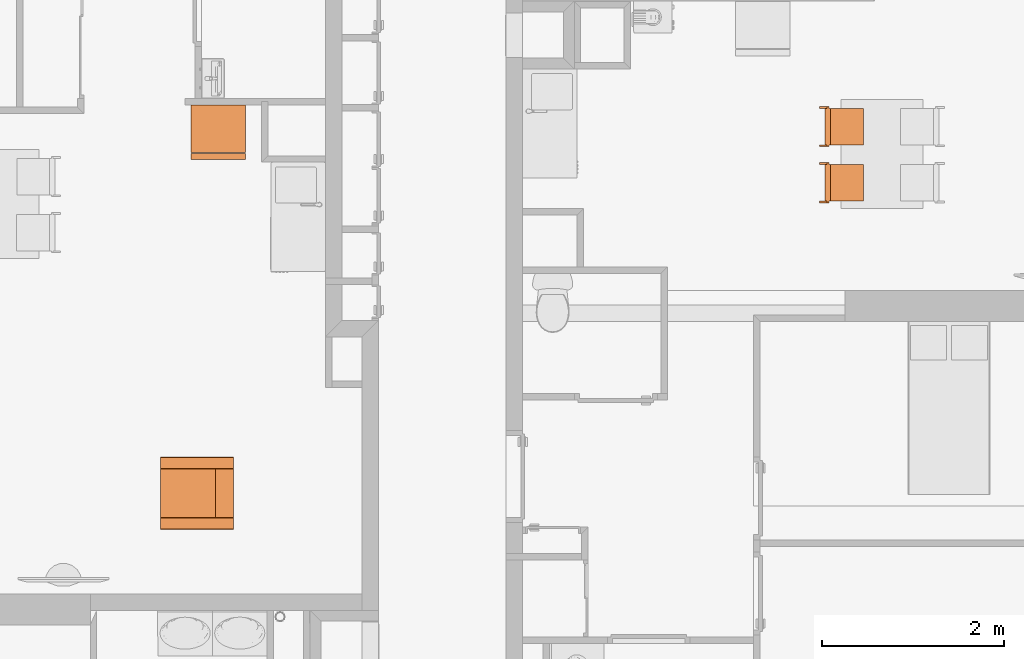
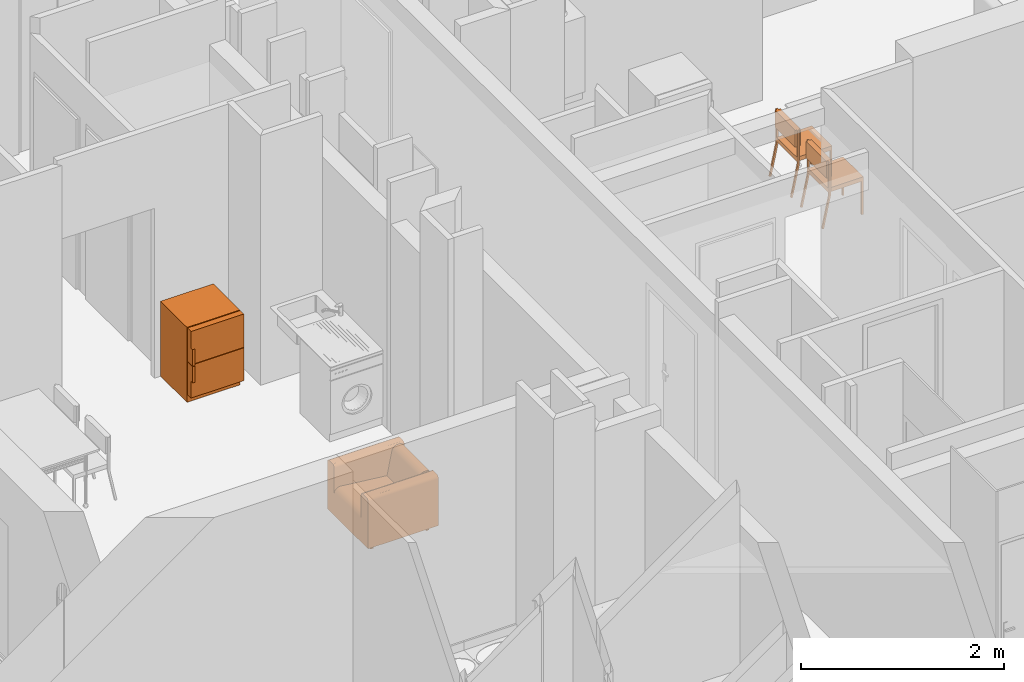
# One storey, part 152 of 171: 4 proxies.
"""IFC2X3 building model written with IfcOpenShell, lengths in millimetres."""

from ifc_helpers import new_model, entity, si_unit, converted_unit, derived_unit, money_unit, direction, frame, origin_with_axes, place, context, subcontext, project, spatial, open_shell, faceted_brep, surface_model, source, transform, mapped, type_object, element, save


model = new_model("IFC2X3")

# Units and contexts
model_context = context("Model", 3, precision=0.01, world=origin_with_axes(), true_north=direction((0.0, 1.0)))
body_context = subcontext(model_context, "Body", "Model", "MODEL_VIEW")
ifc_project = project(units=[si_unit("LENGTHUNIT", "METRE", prefix="MILLI"), si_unit("AREAUNIT", "SQUARE_METRE"), si_unit("VOLUMEUNIT", "CUBIC_METRE"), converted_unit("PLANEANGLEUNIT", "DEGREE", entity("IfcPlaneAngleMeasure", 0.0174532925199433), si_unit("PLANEANGLEUNIT", "RADIAN"), dimensions=[0, 0, 0, 0, 0, 0, 0]), money_unit("USD"), converted_unit("TIMEUNIT", "Year", entity("IfcTimeMeasure", 31557600.0), si_unit("TIMEUNIT", "SECOND"), dimensions=[0, 0, 1, 0, 0, 0, 0]), si_unit("MASSUNIT", "GRAM", prefix="KILO"), si_unit("THERMODYNAMICTEMPERATUREUNIT", "DEGREE_CELSIUS"), si_unit("LUMINOUSINTENSITYUNIT", "LUMEN"), si_unit("ENERGYUNIT", "JOULE", prefix="MEGA"), derived_unit("THERMALCONDUCTANCEUNIT", [(si_unit("POWERUNIT", "WATT"), 1), (si_unit("LENGTHUNIT", "METRE"), -1), (si_unit("THERMODYNAMICTEMPERATUREUNIT", "KELVIN"), -1)]), derived_unit("SPECIFICHEATCAPACITYUNIT", [(si_unit("ENERGYUNIT", "JOULE"), 1), (si_unit("MASSUNIT", "GRAM", prefix="KILO"), -1), (si_unit("THERMODYNAMICTEMPERATUREUNIT", "KELVIN"), -1)]), derived_unit("MASSDENSITYUNIT", [(si_unit("MASSUNIT", "GRAM", prefix="KILO"), 1), (si_unit("VOLUMEUNIT", "CUBIC_METRE"), -1)])], contexts=[model_context])

# Site, building, storey
site_placement = place(None, origin_with_axes())
site = spatial("IfcSite", under=ifc_project, at=site_placement, Name="Site", CompositionType="ELEMENT")
building_placement = place(site_placement, origin_with_axes())
building = spatial("IfcBuilding", under=site, at=building_placement, Name="Bâtiment", CompositionType="ELEMENT")
storey_placement = place(building_placement, frame((0.0, 0.0, 3000.0), z_axis=(0.0, 0.0, 1.0), x_axis=(1.0, 0.0, 0.0)))
storey = spatial("IfcBuildingStorey", under=building, at=storey_placement, Name="rdc", CompositionType="ELEMENT", Elevation=3000.0)

# Proxies
building_element_proxy_type = type_object("IfcBuildingElementProxyType", PredefinedType="NOTDEFINED")
shared_shape_1 = source(origin_with_axes(), body_context, "Body", "Brep", [
    faceted_brep([(-39.99999978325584, 0.0, 0.0), (-39.99999978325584, 19.99999936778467, 0.0), (-19.99999989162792, 19.99999936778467, 0.0), (-19.99999989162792, 0.0, 0.0), (-39.99999978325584, 0.0, 400.0), (-39.99999978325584, 19.99999936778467, 400.0), (-19.99999989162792, 19.99999936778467, 400.0), (-19.99999989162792, 0.0, 400.0)], [[[0, 1, 2, 3]], [[0, 4, 5, 1]], [[1, 5, 6, 2]], [[2, 6, 7, 3]], [[3, 7, 4, 0]], [[7, 6, 5, 4]]]),
    faceted_brep([(-419.9999977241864, 0.0, 0.0), (-419.9999977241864, 19.99999936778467, 0.0), (-399.9999978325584, 19.99999936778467, 0.0), (-399.9999978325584, 0.0, 0.0), (-419.9999977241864, 0.0, 400.0), (-419.9999977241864, 19.99999936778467, 400.0), (-399.9999978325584, 19.99999936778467, 400.0), (-399.9999978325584, 0.0, 400.0)], [[[0, 1, 2, 3]], [[0, 4, 5, 1]], [[1, 5, 6, 2]], [[2, 6, 7, 3]], [[3, 7, 4, 0]], [[7, 6, 5, 4]]]),
    faceted_brep([(-399.9999978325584, 0.0, 400.0000000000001), (-399.9999978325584, 19.99999936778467, 400.0000000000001), (-39.99999978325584, 19.99999936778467, 400.0000000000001), (-39.99999978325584, 0.0, 400.0000000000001), (-399.9999978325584, 0.0, 420.0000000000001), (-399.9999978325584, 19.99999936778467, 420.0000000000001), (-39.99999978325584, 19.99999936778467, 420.0000000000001), (-39.99999978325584, 0.0, 420.0000000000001)], [[[0, 1, 2, 3]], [[0, 4, 5, 1]], [[1, 5, 6, 2]], [[2, 6, 7, 3]], [[3, 7, 4, 0]], [[7, 6, 5, 4]]]),
    faceted_brep([(-39.99999978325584, 19.99999936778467, 400.0000000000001), (-39.99999978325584, 379.9999879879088, 400.0000000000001), (-19.99999989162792, 379.9999879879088, 400.0000000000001), (-19.99999989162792, 19.99999936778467, 400.0000000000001), (-39.99999978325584, 19.99999936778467, 420.0000000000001), (-39.99999978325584, 379.9999879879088, 420.0000000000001), (-19.99999989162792, 379.9999879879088, 420.0000000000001), (-19.99999989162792, 19.99999936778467, 420.0000000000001)], [[[0, 1, 2, 3]], [[0, 4, 5, 1]], [[1, 5, 6, 2]], [[2, 6, 7, 3]], [[3, 7, 4, 0]], [[7, 6, 5, 4]]]),
    faceted_brep([(-419.9999977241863, 379.9999879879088, 400.0000000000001), (-419.9999977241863, 399.9999873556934, 400.0000000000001), (-19.99999989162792, 399.9999873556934, 400.0000000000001), (-19.99999989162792, 379.9999879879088, 400.0000000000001), (-419.9999977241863, 379.9999879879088, 420.0000000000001), (-419.9999977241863, 399.9999873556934, 420.0000000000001), (-19.99999989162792, 399.9999873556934, 420.0000000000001), (-19.99999989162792, 379.9999879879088, 420.0000000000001)], [[[0, 1, 2, 3]], [[0, 4, 5, 1]], [[1, 5, 6, 2]], [[2, 6, 7, 3]], [[3, 7, 4, 0]], [[7, 6, 5, 4]]]),
    faceted_brep([(-419.9999977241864, 19.99999936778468, 400.0000000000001), (-419.9999977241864, 379.9999879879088, 400.0000000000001), (-399.9999978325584, 379.9999879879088, 400.0000000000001), (-399.9999978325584, 19.99999936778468, 400.0000000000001), (-419.9999977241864, 19.99999936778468, 420.0000000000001), (-419.9999977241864, 379.9999879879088, 420.0000000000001), (-399.9999978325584, 379.9999879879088, 420.0000000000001), (-399.9999978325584, 19.99999936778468, 420.0000000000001)], [[[0, 1, 2, 3]], [[0, 4, 5, 1]], [[1, 5, 6, 2]], [[2, 6, 7, 3]], [[3, 7, 4, 0]], [[7, 6, 5, 4]]]),
    faceted_brep([(-419.9999977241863, 0.0, 400.0), (-419.9999977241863, 399.9999873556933, 400.0), (-19.99999989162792, 399.9999873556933, 400.0), (-19.99999989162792, 0.0, 400.0), (-419.9999977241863, 0.0, 450.0), (-419.9999977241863, 399.9999873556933, 450.0), (-19.99999989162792, 399.9999873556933, 450.0), (-19.99999989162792, 0.0, 450.0)], [[[0, 1, 2, 3]], [[0, 4, 5, 1]], [[1, 5, 6, 2]], [[2, 6, 7, 3]], [[3, 7, 4, 0]], [[7, 6, 5, 4]]]),
    faceted_brep([(-19.99999989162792, 379.9999879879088, 380.0), (-19.99999989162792, 399.9999873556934, 380.0), (0.0, 399.9999873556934, 380.0), (0.0, 379.9999879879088, 380.0), (-19.99999989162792, 379.9999879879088, 780.0), (-19.99999989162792, 399.9999873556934, 780.0), (0.0, 399.9999873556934, 780.0), (0.0, 379.9999879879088, 780.0)], [[[0, 1, 2, 3]], [[0, 4, 5, 1]], [[1, 5, 6, 2]], [[2, 6, 7, 3]], [[3, 7, 4, 0]], [[7, 6, 5, 4]]]),
    faceted_brep([(-439.9999976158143, 379.9999879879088, 380.0), (-439.9999976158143, 399.9999873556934, 380.0), (-419.9999977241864, 399.9999873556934, 380.0), (-419.9999977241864, 379.9999879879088, 380.0), (-439.9999976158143, 379.9999879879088, 780.0), (-439.9999976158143, 399.9999873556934, 780.0), (-419.9999977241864, 399.9999873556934, 780.0), (-419.9999977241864, 379.9999879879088, 780.0)], [[[0, 1, 2, 3]], [[0, 4, 5, 1]], [[1, 5, 6, 2]], [[2, 6, 7, 3]], [[3, 7, 4, 0]], [[7, 6, 5, 4]]]),
    faceted_brep([(-419.9999977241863, 359.999988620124, 580.0000000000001), (-419.9999977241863, 419.9999867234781, 580.0000000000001), (-19.99999989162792, 419.9999867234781, 580.0000000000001), (-19.99999989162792, 359.999988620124, 580.0000000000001), (-419.9999977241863, 359.999988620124, 780.0), (-419.9999977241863, 419.9999867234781, 780.0), (-19.99999989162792, 419.9999867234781, 780.0), (-19.99999989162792, 359.999988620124, 780.0)], [[[0, 1, 2, 3]], [[0, 4, 5, 1]], [[1, 5, 6, 2]], [[2, 6, 7, 3]], [[3, 7, 4, 0]], [[7, 6, 5, 4]]]),
    faceted_brep([(-19.99999989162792, 459.9999854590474, 0.0), (-19.99999989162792, 479.5709559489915, 4.120326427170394), (0.0, 479.5709559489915, 4.120326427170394), (0.0, 459.9999854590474, 0.0), (-19.99999989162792, 379.997669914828, 379.999760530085), (-19.99999989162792, 399.5686404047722, 384.1200869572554), (0.0, 399.5686404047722, 384.1200869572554), (0.0, 379.997669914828, 379.999760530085)], [[[0, 1, 2, 3]], [[0, 4, 5, 1]], [[1, 5, 6, 2]], [[2, 6, 7, 3]], [[3, 7, 4, 0]], [[7, 6, 5, 4]]]),
    faceted_brep([(-439.9999976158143, 459.9999854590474, 0.0), (-439.9999976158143, 479.5709559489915, 4.120326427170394), (-419.9999977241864, 479.5709559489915, 4.120326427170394), (-419.9999977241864, 459.9999854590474, 0.0), (-439.9999976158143, 379.997669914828, 379.999760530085), (-439.9999976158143, 399.5686404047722, 384.1200869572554), (-419.9999977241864, 399.5686404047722, 384.1200869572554), (-419.9999977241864, 379.997669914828, 379.999760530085)], [[[0, 1, 2, 3]], [[0, 4, 5, 1]], [[1, 5, 6, 2]], [[2, 6, 7, 3]], [[3, 7, 4, 0]], [[7, 6, 5, 4]]]),
])
for number, where, z_axis, x_axis, name in (
    (1, (2229634.550869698, -638670.4912594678, 0.0), (0.0, 0.0, 1.0), (8.510155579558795e-05, 0.9999999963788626, 0.0), "Obj.-027"),
    (2, (2229634.498521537, -639285.6166621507, 0.0), (0.0, 0.0, 1.0), (8.510155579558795e-05, 0.9999999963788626, 0.0), "Obj.-027"),
):
    element("IfcBuildingElementProxy", number, at=place(storey_placement, frame(where, z_axis=z_axis, x_axis=x_axis)), inside=storey, type_object=building_element_proxy_type, Name=name, context=body_context, shape_type="MappedRepresentation", body=[
        mapped(shared_shape_1, transform((0.0, 0.0, 0.0))),
    ])
shared_shape_2 = source(origin_with_axes(), body_context, "Body", "Brep", [
    faceted_brep([(-333.3000000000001, 66.7, 0.0), (-333.3000000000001, 100.0, 0.0), (-300.0000000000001, 100.0, 0.0), (-300.0000000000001, 66.7, 0.0), (-333.3000000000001, 66.7, 66.69999999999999), (-333.3000000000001, 100.0, 66.69999999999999), (-300.0000000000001, 100.0, 66.69999999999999), (-300.0000000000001, 66.7, 66.69999999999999)], [[[0, 1, 2, 3]], [[0, 4, 5, 1]], [[1, 5, 6, 2]], [[2, 6, 7, 3]], [[3, 7, 4, 0]], [[7, 6, 5, 4]]]),
    faceted_brep([(-333.3000000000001, 700.0000000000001, 0.0), (-333.3000000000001, 733.3000000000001, 0.0), (-300.0000000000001, 733.3000000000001, 0.0), (-300.0000000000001, 700.0000000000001, 0.0), (-333.3000000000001, 700.0000000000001, 66.69999999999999), (-333.3000000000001, 733.3000000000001, 66.69999999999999), (-300.0000000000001, 733.3000000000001, 66.69999999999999), (-300.0000000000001, 700.0000000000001, 66.69999999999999)], [[[0, 1, 2, 3]], [[0, 4, 5, 1]], [[1, 5, 6, 2]], [[2, 6, 7, 3]], [[3, 7, 4, 0]], [[7, 6, 5, 4]]]),
    faceted_brep([(300.0000000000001, 66.7, 0.0), (300.0000000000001, 100.0, 0.0), (333.3000000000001, 100.0, 0.0), (333.3000000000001, 66.7, 0.0), (300.0000000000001, 66.7, 66.69999999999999), (300.0000000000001, 100.0, 66.69999999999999), (333.3000000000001, 100.0, 66.69999999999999), (333.3000000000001, 66.7, 66.69999999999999)], [[[0, 1, 2, 3]], [[0, 4, 5, 1]], [[1, 5, 6, 2]], [[2, 6, 7, 3]], [[3, 7, 4, 0]], [[7, 6, 5, 4]]]),
    faceted_brep([(300.0000000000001, 700.0000000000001, 0.0), (300.0000000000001, 733.3000000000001, 0.0), (333.3000000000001, 733.3000000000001, 0.0), (333.3000000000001, 700.0000000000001, 0.0), (300.0000000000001, 700.0000000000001, 66.69999999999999), (300.0000000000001, 733.3000000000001, 66.69999999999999), (333.3000000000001, 733.3000000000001, 66.69999999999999), (333.3000000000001, 700.0000000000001, 66.69999999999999)], [[[0, 1, 2, 3]], [[0, 4, 5, 1]], [[1, 5, 6, 2]], [[2, 6, 7, 3]], [[3, 7, 4, 0]], [[7, 6, 5, 4]]]),
    faceted_brep([(-266.7, 800.0, 66.69999999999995), (-266.7, 0.0, 66.69999999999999), (-400.033, 0.0, 66.69999999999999), (-400.033, 800.0, 66.69999999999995), (-266.7, 800.0, 67.19999999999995), (-266.7, 0.0, 67.19999999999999), (-266.7, 0.0, 633.37), (-266.7, 0.0, 636.2859999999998), (-267.713, 0.0, 642.029), (-269.707, 0.0, 647.5099999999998), (-272.623, 0.0, 652.5599999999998), (-276.372, 0.0, 657.0279999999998), (-280.84, 0.0, 660.7769999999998), (-285.89, 0.0, 663.6929999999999), (-291.371, 0.0, 665.6869999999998), (-297.114, 0.0, 666.6999999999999), (-300.03, 0.0, 666.6999999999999), (-366.703, 0.0, 666.6999999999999), (-369.619, 0.0, 666.6999999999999), (-375.363, 0.0, 665.6869999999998), (-380.843, 0.0, 663.6929999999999), (-385.894, 0.0, 660.7769999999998), (-390.361, 0.0, 657.0279999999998), (-394.11, 0.0, 652.5599999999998), (-397.026, 0.0, 647.5099999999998), (-399.021, 0.0, 642.029), (-400.033, 0.0, 636.2859999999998), (-400.033, 0.0, 633.37), (-400.033, 800.0, 633.37), (-400.033, 800.0, 636.2859999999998), (-399.021, 800.0, 642.029), (-397.026, 800.0, 647.5099999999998), (-394.11, 800.0, 652.5599999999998), (-390.361, 800.0, 657.0279999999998), (-385.894, 800.0, 660.7769999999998), (-380.843, 800.0, 663.6929999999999), (-375.363, 800.0, 665.6869999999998), (-369.619, 800.0, 666.6999999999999), (-366.703, 800.0, 666.6999999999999), (-300.03, 800.0, 666.6999999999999), (-297.114, 800.0, 666.6999999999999), (-291.371, 800.0, 665.6869999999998), (-285.89, 800.0, 663.6929999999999), (-280.84, 800.0, 660.7769999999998), (-276.372, 800.0, 657.0279999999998), (-272.623, 800.0, 652.5599999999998), (-269.707, 800.0, 647.5099999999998), (-267.713, 800.0, 642.029), (-266.7, 800.0, 636.2859999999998), (-266.7, 800.0, 633.37)], [[[0, 1, 2, 3]], [[4, 5, 1, 0]], [[1, 5, 6, 7, 8, 9, 10, 11, 12, 13, 14, 15, 16, 17, 18, 19, 20, 21, 22, 23, 24, 25, 26, 27, 2]], [[3, 2, 27, 28]], [[0, 3, 28, 29, 30, 31, 32, 33, 34, 35, 36, 37, 38, 39, 40, 41, 42, 43, 44, 45, 46, 47, 48, 49, 4]], [[49, 6, 5, 4]], [[48, 7, 6, 49]], [[47, 8, 7, 48]], [[46, 9, 8, 47]], [[45, 10, 9, 46]], [[44, 11, 10, 45]], [[43, 12, 11, 44]], [[42, 13, 12, 43]], [[41, 14, 13, 42]], [[40, 15, 14, 41]], [[39, 16, 15, 40]], [[38, 17, 16, 39]], [[37, 18, 17, 38]], [[36, 19, 18, 37]], [[35, 20, 19, 36]], [[34, 21, 20, 35]], [[33, 22, 21, 34]], [[32, 23, 22, 33]], [[31, 24, 23, 32]], [[30, 25, 24, 31]], [[29, 26, 25, 30]], [[28, 27, 26, 29]]]),
    faceted_brep([(400.0, 800.0, 66.69999999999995), (400.0, 0.0, 66.69999999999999), (266.667, 0.0, 66.69999999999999), (266.667, 800.0, 66.69999999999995), (400.0, 800.0, 67.19999999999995), (400.0, 0.0, 67.19999999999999), (400.0, 0.0, 633.37), (400.0, 0.0, 636.2859999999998), (398.987, 0.0, 642.029), (396.9930000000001, 0.0, 647.5099999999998), (394.077, 0.0, 652.5599999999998), (390.328, 0.0, 657.0279999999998), (385.86, 0.0, 660.7769999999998), (380.8100000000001, 0.0, 663.6929999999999), (375.329, 0.0, 665.6869999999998), (369.586, 0.0, 666.6999999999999), (366.67, 0.0, 666.6999999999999), (299.997, 0.0, 666.6999999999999), (297.081, 0.0, 666.6999999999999), (291.337, 0.0, 665.6869999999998), (285.857, 0.0, 663.6929999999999), (280.806, 0.0, 660.7769999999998), (276.339, 0.0, 657.0279999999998), (272.59, 0.0, 652.5599999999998), (269.674, 0.0, 647.5099999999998), (267.679, 0.0, 642.029), (266.667, 0.0, 636.2859999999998), (266.667, 0.0, 633.37), (266.667, 800.0, 633.37), (266.667, 800.0, 636.2859999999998), (267.679, 800.0, 642.029), (269.674, 800.0, 647.5099999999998), (272.59, 800.0, 652.5599999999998), (276.339, 800.0, 657.0279999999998), (280.806, 800.0, 660.7769999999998), (285.857, 800.0, 663.6929999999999), (291.337, 800.0, 665.6869999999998), (297.081, 800.0, 666.6999999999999), (299.997, 800.0, 666.6999999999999), (366.67, 800.0, 666.6999999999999), (369.586, 800.0, 666.6999999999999), (375.329, 800.0, 665.6869999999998), (380.8100000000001, 800.0, 663.6929999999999), (385.86, 800.0, 660.7769999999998), (390.328, 800.0, 657.0279999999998), (394.077, 800.0, 652.5599999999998), (396.9930000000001, 800.0, 647.5099999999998), (398.987, 800.0, 642.029), (400.0, 800.0, 636.2859999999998), (400.0, 800.0, 633.37)], [[[0, 1, 2, 3]], [[4, 5, 1, 0]], [[1, 5, 6, 7, 8, 9, 10, 11, 12, 13, 14, 15, 16, 17, 18, 19, 20, 21, 22, 23, 24, 25, 26, 27, 2]], [[3, 2, 27, 28]], [[0, 3, 28, 29, 30, 31, 32, 33, 34, 35, 36, 37, 38, 39, 40, 41, 42, 43, 44, 45, 46, 47, 48, 49, 4]], [[49, 6, 5, 4]], [[48, 7, 6, 49]], [[47, 8, 7, 48]], [[46, 9, 8, 47]], [[45, 10, 9, 46]], [[44, 11, 10, 45]], [[43, 12, 11, 44]], [[42, 13, 12, 43]], [[41, 14, 13, 42]], [[40, 15, 14, 41]], [[39, 16, 15, 40]], [[38, 17, 16, 39]], [[37, 18, 17, 38]], [[36, 19, 18, 37]], [[35, 20, 19, 36]], [[34, 21, 20, 35]], [[33, 22, 21, 34]], [[32, 23, 22, 33]], [[31, 24, 23, 32]], [[30, 25, 24, 31]], [[29, 26, 25, 30]], [[28, 27, 26, 29]]]),
    faceted_brep([(266.6667, 0.0, 66.69999999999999), (-266.6333, 0.0, 66.69999999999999), (-266.6333, 800.0, 66.69999999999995), (266.6667, 800.0, 66.69999999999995), (266.6667, 0.0, 67.2), (-266.6333, 0.0, 67.2), (-266.6333, 0.0, 325.5449999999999), (-266.6333, -0.2359999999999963, 327.1109999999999), (-266.6333, 1.052000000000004, 338.7049999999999), (-266.6333, 4.334000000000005, 349.8989999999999), (-266.6333, 9.510000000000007, 360.3539999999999), (-266.6333, 16.42300000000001, 369.7509999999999), (-266.6333, 24.86200000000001, 377.8049999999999), (-266.6333, 34.57200000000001, 384.271), (-266.6333, 45.25800000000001, 388.9519999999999), (-266.6333, 56.59300000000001, 391.707), (-266.6333, 68.23500000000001, 392.4519999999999), (-266.6333, 74.03200000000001, 391.808), (-266.6333, 600.0000000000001, 333.3669999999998), (-266.6333, 600.0980000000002, 333.8569999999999), (-266.6333, 655.9480000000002, 613.1049999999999), (-266.6333, 656.6790000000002, 617.351), (-266.6333, 660.6690000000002, 628.314), (-266.6333, 666.5020000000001, 638.4159999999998), (-266.6333, 674.0000000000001, 647.3529999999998), (-266.6333, 682.937, 654.8509999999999), (-266.6333, 693.0390000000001, 660.6839999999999), (-266.6333, 704.0020000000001, 664.6739999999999), (-266.6333, 715.4900000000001, 666.6999999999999), (-266.6333, 721.3230000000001, 666.6999999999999), (-266.6333, 733.33, 666.6999999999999), (-266.6333, 739.163, 666.6999999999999), (-266.6333, 750.6510000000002, 664.6739999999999), (-266.6333, 761.614, 660.6839999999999), (-266.6333, 771.716, 654.8509999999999), (-266.6333, 780.653, 647.3529999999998), (-266.6333, 788.1510000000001, 638.4159999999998), (-266.6333, 793.984, 628.314), (-266.6333, 797.974, 617.351), (-266.6333, 800.0, 605.8629999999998), (-266.6333, 800.0, 600.0299999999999), (266.6667, 800.0, 600.0299999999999), (266.6667, 800.0, 605.8629999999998), (266.6667, 797.974, 617.351), (266.6667, 793.984, 628.314), (266.6667, 788.1510000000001, 638.4159999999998), (266.6667, 780.653, 647.3529999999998), (266.6667, 771.716, 654.8509999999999), (266.6667, 761.614, 660.6839999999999), (266.6667, 750.6510000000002, 664.6739999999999), (266.6667, 739.163, 666.6999999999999), (266.6667, 733.33, 666.6999999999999), (266.6667, 721.3230000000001, 666.6999999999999), (266.6667, 715.4900000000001, 666.6999999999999), (266.6667, 704.0020000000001, 664.6739999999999), (266.6667, 693.0390000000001, 660.6839999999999), (266.6667, 682.937, 654.8509999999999), (266.6667, 674.0000000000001, 647.3529999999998), (266.6667, 666.5020000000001, 638.4159999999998), (266.6667, 660.6690000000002, 628.314), (266.6667, 656.6790000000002, 617.351), (266.6667, 655.9480000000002, 613.1049999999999), (266.6667, 600.0980000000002, 333.8569999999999), (266.6667, 600.0000000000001, 333.3669999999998), (266.6667, 74.03200000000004, 391.808), (266.6667, 68.23500000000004, 392.4519999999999), (266.6667, 56.59300000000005, 391.707), (266.6667, 45.25800000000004, 388.9519999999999), (266.6667, 34.57200000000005, 384.271), (266.6667, 24.86200000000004, 377.8049999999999), (266.6667, 16.42300000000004, 369.7509999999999), (266.6667, 9.510000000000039, 360.3539999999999), (266.6667, 4.334000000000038, 349.8989999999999), (266.6667, 1.052000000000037, 338.7049999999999), (266.6667, -0.2359999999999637, 327.1109999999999), (266.6667, 0.0, 325.5449999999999)], [[[0, 1, 2, 3]], [[4, 5, 1, 0]], [[1, 5, 6, 7, 8, 9, 10, 11, 12, 13, 14, 15, 16, 17, 18, 19, 20, 21, 22, 23, 24, 25, 26, 27, 28, 29, 30, 31, 32, 33, 34, 35, 36, 37, 38, 39, 40, 2]], [[3, 2, 40, 41]], [[0, 3, 41, 42, 43, 44, 45, 46, 47, 48, 49, 50, 51, 52, 53, 54, 55, 56, 57, 58, 59, 60, 61, 62, 63, 64, 65, 66, 67, 68, 69, 70, 71, 72, 73, 74, 75, 4]], [[75, 6, 5, 4]], [[74, 7, 6, 75]], [[73, 8, 7, 74]], [[72, 9, 8, 73]], [[71, 10, 9, 72]], [[70, 11, 10, 71]], [[69, 12, 11, 70]], [[68, 13, 12, 69]], [[67, 14, 13, 68]], [[66, 15, 14, 67]], [[65, 16, 15, 66]], [[64, 17, 16, 65]], [[63, 18, 17, 64]], [[62, 19, 18, 63]], [[61, 20, 19, 62]], [[60, 21, 20, 61]], [[59, 22, 21, 60]], [[58, 23, 22, 59]], [[57, 24, 23, 58]], [[56, 25, 24, 57]], [[55, 26, 25, 56]], [[54, 27, 26, 55]], [[53, 28, 27, 54]], [[52, 29, 28, 53]], [[51, 30, 29, 52]], [[50, 31, 30, 51]], [[49, 32, 31, 50]], [[48, 33, 32, 49]], [[47, 34, 33, 48]], [[46, 35, 34, 47]], [[45, 36, 35, 46]], [[44, 37, 36, 45]], [[43, 38, 37, 44]], [[42, 39, 38, 43]], [[41, 40, 39, 42]]]),
])
proxy_1_placement = place(storey_placement, frame((2221923.384650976, -642912.0247262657, 800.0000000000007), z_axis=(0.0, 0.0, 1.0), x_axis=(-0.0006263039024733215, -0.9999998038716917, 0.0)))
element("IfcBuildingElementProxy", 3, at=proxy_1_placement, inside=storey, type_object=building_element_proxy_type, Name="Obj.-034", context=body_context, shape_type="MappedRepresentation", body=[
    mapped(shared_shape_2, transform((0.0, 0.0, 0.0))),
])
shared_shape_3 = source(origin_with_axes(), body_context, "Body", "SurfaceModel", [
    faceted_brep([(0.0, 80.0, 100.0), (0.0, 80.0, 900.0), (-600.0, 80.0, 900.0), (-600.0, 80.0, 100.0), (0.0, 600.0, 100.0), (0.0, 600.0, 900.0), (-600.0, 600.0, 900.0), (-600.0, 600.0, 100.0)], [[[0, 1, 2, 3]], [[4, 5, 1, 0]], [[1, 5, 6, 2]], [[3, 2, 6, 7]], [[0, 3, 7, 4]], [[7, 6, 5, 4]]]),
    faceted_brep([(0.0, 80.0, 0.0), (0.0, 80.0, 100.0), (-600.0, 80.0, 100.0), (-600.0, 80.0, 0.0), (0.0, 600.0, 0.0), (0.0, 600.0, 100.0), (-600.0, 600.0, 100.0), (-600.0, 600.0, 0.0)], [[[0, 1, 2, 3]], [[4, 5, 1, 0]], [[1, 5, 6, 2]], [[3, 2, 6, 7]], [[0, 3, 7, 4]], [[7, 6, 5, 4]]]),
    faceted_brep([(0.0, 70.0, 100.0), (0.0, 0.0, 100.0), (-600.0, 0.0, 100.0), (-600.0, 70.0, 100.0), (0.0, 70.00000000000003, 494.0), (0.0, 0.0, 494.0), (-600.0, 0.0, 494.0), (-600.0, 70.00000000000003, 494.0)], [[[0, 1, 2, 3]], [[4, 5, 1, 0]], [[1, 5, 6, 2]], [[3, 2, 6, 7]], [[0, 3, 7, 4]], [[7, 6, 5, 4]]]),
    faceted_brep([(0.0, 70.0, 500.0), (0.0, 0.0, 500.0), (-600.0, 0.0, 500.0), (-600.0, 70.0, 500.0), (0.0, 70.00000000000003, 900.0), (0.0, 0.0, 900.0), (-600.0, 0.0, 900.0), (-600.0, 70.00000000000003, 900.0)], [[[0, 1, 2, 3]], [[4, 5, 1, 0]], [[1, 5, 6, 2]], [[3, 2, 6, 7]], [[0, 3, 7, 4]], [[7, 6, 5, 4]]]),
    surface_model("IfcShellBasedSurfaceModel", [(-600.0, -30.0, 300.0000000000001), (-600.0, 0.0, 300.0000000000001), (-600.0, 0.0, 494.0000000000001), (-600.0, -30.0, 494.0000000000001)], [open_shell([[[0, 1, 2, 3]]])]),
    surface_model("IfcShellBasedSurfaceModel", [(-600.0, -30.0, 300.0000000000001), (-570.0, -30.0, 300.0000000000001), (-570.0, -30.0, 494.0000000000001), (-600.0, -30.0, 494.0000000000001)], [open_shell([[[0, 1, 2, 3]]])]),
    surface_model("IfcShellBasedSurfaceModel", [(-600.0, -30.0, 500.0), (-600.0, 0.0, 500.0), (-600.0, 0.0, 700.0), (-600.0, -30.0, 700.0)], [open_shell([[[0, 1, 2, 3]]])]),
    surface_model("IfcShellBasedSurfaceModel", [(-600.0, -30.0, 500.0), (-570.0, -30.0, 500.0), (-570.0, -30.0, 700.0), (-600.0, -30.0, 700.0)], [open_shell([[[0, 1, 2, 3]]])]),
])
proxy_2_placement = place(storey_placement, frame((2222856.56085778, -639252.0255296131, 0.0), z_axis=(0.0, 0.0, 1.0), x_axis=(1.0, 0.0, 0.0)))
element("IfcBuildingElementProxy", 4, at=proxy_2_placement, inside=storey, type_object=building_element_proxy_type, Name="Obj.-019", context=body_context, shape_type="MappedRepresentation", body=[
    mapped(shared_shape_3, transform((0.0, 0.0, 0.0))),
])

save(model, "model.ifc")
